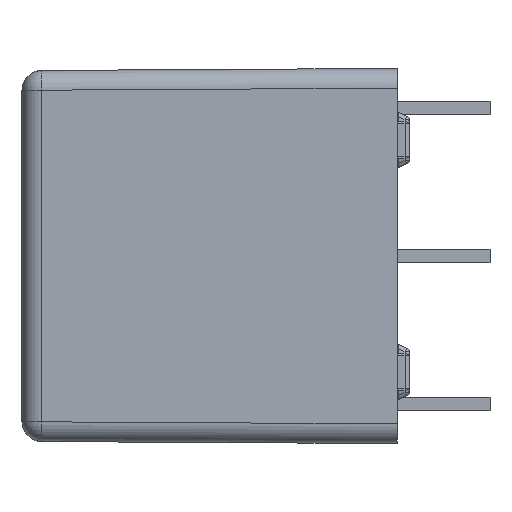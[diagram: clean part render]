
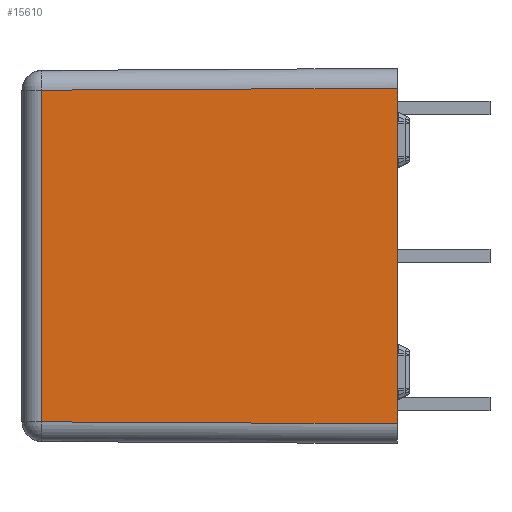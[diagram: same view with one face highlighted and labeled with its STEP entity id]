
A CAD part, left-side view. The second image highlights one B-rep face of the part: STEP entity #15610.
In plain terms, the highlighted planar face has unit normal (-1, 0.006, 0).
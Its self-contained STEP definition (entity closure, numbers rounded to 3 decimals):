
#1864 = FACE_OUTER_BOUND ( 'NONE', #9287, .T. ) ;
#1968 = LINE ( 'NONE', #22654, #3476 ) ;
#2401 = DIRECTION ( 'NONE',  ( 0., 0., -1. ) ) ;
#2403 = CARTESIAN_POINT ( 'NONE',  ( -34., -9.5, 9.5 ) ) ;
#2556 = CARTESIAN_POINT ( 'NONE',  ( -33.899, 8.506, -8.399 ) ) ;
#3476 = VECTOR ( 'NONE', #2401, 1000. ) ;
#3753 = DIRECTION ( 'NONE',  ( 0.006, 1., -0.006 ) ) ;
#3953 = PLANE ( 'NONE',  #29171 ) ;
#4490 = VECTOR ( 'NONE', #13844, 1000. ) ;
#6441 = CARTESIAN_POINT ( 'NONE',  ( -33.899, 8.506, 8.399 ) ) ;
#6742 = VERTEX_POINT ( 'NONE', #17935 ) ;
#7297 = LINE ( 'NONE', #2403, #4490 ) ;
#8493 = VERTEX_POINT ( 'NONE', #22192 ) ;
#8805 = LINE ( 'NONE', #15630, #21992 ) ;
#9287 = EDGE_LOOP ( 'NONE', ( #26453, #11048, #10776, #26719 ) ) ;
#9771 = VERTEX_POINT ( 'NONE', #2556 ) ;
#10666 = EDGE_CURVE ( 'NONE', #9771, #8493, #14308, .T. ) ;
#10776 = ORIENTED_EDGE ( 'NONE', *, *, #10666, .T. ) ;
#10932 = CARTESIAN_POINT ( 'NONE',  ( -34., -9.5, 9.5 ) ) ;
#11048 = ORIENTED_EDGE ( 'NONE', *, *, #24685, .T. ) ;
#13844 = DIRECTION ( 'NONE',  ( 0., 0., -1. ) ) ;
#14308 = LINE ( 'NONE', #17407, #28520 ) ;
#15610 = ADVANCED_FACE ( 'NONE', ( #1864 ), #3953, .T. ) ;
#15630 = CARTESIAN_POINT ( 'NONE',  ( -34., -9.506, 8.5 ) ) ;
#16110 = EDGE_CURVE ( 'NONE', #6742, #8493, #7297, .T. ) ;
#17407 = CARTESIAN_POINT ( 'NONE',  ( -34., -9.506, -8.5 ) ) ;
#17644 = DIRECTION ( 'NONE',  ( -1., 0.006, 0. ) ) ;
#17935 = CARTESIAN_POINT ( 'NONE',  ( -34., -9.5, 8.5 ) ) ;
#20437 = VERTEX_POINT ( 'NONE', #6441 ) ;
#21992 = VECTOR ( 'NONE', #3753, 1000. ) ;
#22192 = CARTESIAN_POINT ( 'NONE',  ( -34., -9.5, -8.5 ) ) ;
#22654 = CARTESIAN_POINT ( 'NONE',  ( -33.899, 8.506, 9.5 ) ) ;
#24685 = EDGE_CURVE ( 'NONE', #20437, #9771, #1968, .T. ) ;
#25582 = EDGE_CURVE ( 'NONE', #6742, #20437, #8805, .T. ) ;
#26453 = ORIENTED_EDGE ( 'NONE', *, *, #25582, .T. ) ;
#26691 = DIRECTION ( 'NONE',  ( -0.006, -1., 0. ) ) ;
#26719 = ORIENTED_EDGE ( 'NONE', *, *, #16110, .F. ) ;
#27998 = DIRECTION ( 'NONE',  ( -0.006, -1., -0.006 ) ) ;
#28520 = VECTOR ( 'NONE', #27998, 1000. ) ;
#29171 = AXIS2_PLACEMENT_3D ( 'NONE', #10932, #17644, #26691 ) ;
